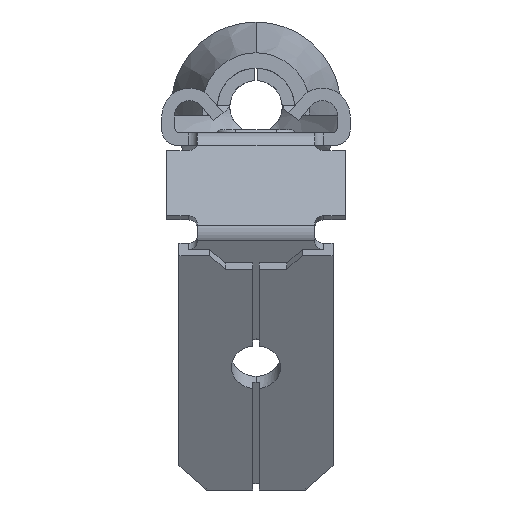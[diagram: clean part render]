
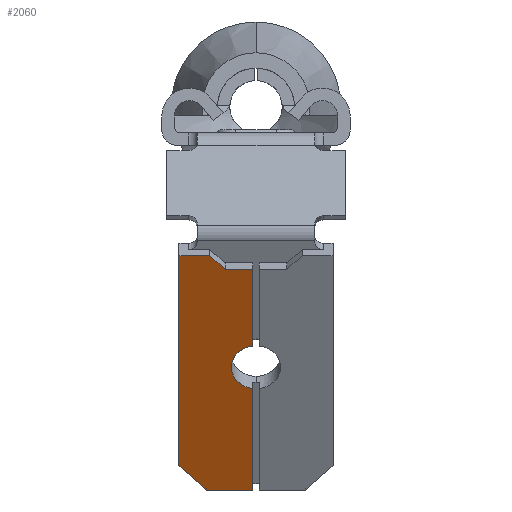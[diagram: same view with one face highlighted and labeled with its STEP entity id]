
A CAD part, front view. The second image highlights one B-rep face of the part: STEP entity #2060.
In plain terms, the highlighted planar face has unit normal (0, -0.866, -0.5).
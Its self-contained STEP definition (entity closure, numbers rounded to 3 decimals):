
#108 = VECTOR ( 'NONE', #2494, 1000. ) ;
#162 = VECTOR ( 'NONE', #1611, 1000. ) ;
#211 = DIRECTION ( 'NONE',  ( 0., 0.5, -0.866 ) ) ;
#216 = LINE ( 'NONE', #4111, #3327 ) ;
#263 = CARTESIAN_POINT ( 'NONE',  ( -1., -17.357, -5.269 ) ) ;
#292 = LINE ( 'NONE', #1249, #162 ) ;
#312 = ORIENTED_EDGE ( 'NONE', *, *, #3832, .T. ) ;
#331 = EDGE_LOOP ( 'NONE', ( #1487, #1475, #1742, #605, #2176, #4123, #312, #2824, #2769 ) ) ;
#381 = PLANE ( 'NONE',  #2603 ) ;
#458 = CARTESIAN_POINT ( 'NONE',  ( -1.5, -17.607, -4.836 ) ) ;
#474 = VECTOR ( 'NONE', #211, 1000. ) ;
#506 = EDGE_CURVE ( 'NONE', #2932, #3240, #4028, .T. ) ;
#512 = VECTOR ( 'NONE', #2602, 1000. ) ;
#548 = DIRECTION ( 'NONE',  ( 0., -0.5, 0.866 ) ) ;
#605 = ORIENTED_EDGE ( 'NONE', *, *, #506, .T. ) ;
#621 = CARTESIAN_POINT ( 'NONE',  ( -0.1, -15.122, -9.14 ) ) ;
#785 = EDGE_CURVE ( 'NONE', #4762, #2932, #3212, .T. ) ;
#917 = CARTESIAN_POINT ( 'NONE',  ( -0.1, -13.219, -12.437 ) ) ;
#1022 = EDGE_CURVE ( 'NONE', #3240, #1486, #292, .T. ) ;
#1144 = CARTESIAN_POINT ( 'NONE',  ( -0.1, -17.357, -5.269 ) ) ;
#1174 = DIRECTION ( 'NONE',  ( -0.707, -0.354, 0.612 ) ) ;
#1249 = CARTESIAN_POINT ( 'NONE',  ( -2.5, -17.607, -4.836 ) ) ;
#1306 = CARTESIAN_POINT ( 'NONE',  ( -0.1, -17.357, -5.269 ) ) ;
#1355 = VERTEX_POINT ( 'NONE', #3052 ) ;
#1384 = EDGE_CURVE ( 'NONE', #1910, #2545, #3802, .T. ) ;
#1475 = ORIENTED_EDGE ( 'NONE', *, *, #4750, .T. ) ;
#1480 = LINE ( 'NONE', #1709, #474 ) ;
#1486 = VERTEX_POINT ( 'NONE', #2064 ) ;
#1487 = ORIENTED_EDGE ( 'NONE', *, *, #1384, .F. ) ;
#1488 = EDGE_CURVE ( 'NONE', #1486, #4480, #1480, .T. ) ;
#1525 = DIRECTION ( 'NONE',  ( 0., 0.5, -0.866 ) ) ;
#1611 = DIRECTION ( 'NONE',  ( -1., 0., 0. ) ) ;
#1616 = VECTOR ( 'NONE', #548, 1000. ) ;
#1709 = CARTESIAN_POINT ( 'NONE',  ( -2.5, -17.607, -4.836 ) ) ;
#1742 = ORIENTED_EDGE ( 'NONE', *, *, #785, .T. ) ;
#1885 = AXIS2_PLACEMENT_3D ( 'NONE', #3205, #3576, #3934 ) ;
#1910 = VERTEX_POINT ( 'NONE', #4019 ) ;
#2035 = VECTOR ( 'NONE', #1174, 1000. ) ;
#2060 = ADVANCED_FACE ( 'NONE', ( #2320 ), #381, .T. ) ;
#2064 = CARTESIAN_POINT ( 'NONE',  ( -2.5, -17.607, -4.836 ) ) ;
#2068 = EDGE_CURVE ( 'NONE', #1355, #4752, #216, .T. ) ;
#2140 = CARTESIAN_POINT ( 'NONE',  ( -1.5, -17.607, -4.836 ) ) ;
#2176 = ORIENTED_EDGE ( 'NONE', *, *, #1022, .T. ) ;
#2227 = CARTESIAN_POINT ( 'NONE',  ( -2.5, -13.669, -11.657 ) ) ;
#2320 = FACE_OUTER_BOUND ( 'NONE', #331, .T. ) ;
#2494 = DIRECTION ( 'NONE',  ( -1., 0., 0. ) ) ;
#2536 = LINE ( 'NONE', #1144, #4609 ) ;
#2545 = VERTEX_POINT ( 'NONE', #621 ) ;
#2602 = DIRECTION ( 'NONE',  ( 0.707, 0.354, -0.612 ) ) ;
#2603 = AXIS2_PLACEMENT_3D ( 'NONE', #3377, #3749, #1525 ) ;
#2769 = ORIENTED_EDGE ( 'NONE', *, *, #4552, .T. ) ;
#2824 = ORIENTED_EDGE ( 'NONE', *, *, #2068, .T. ) ;
#2932 = VERTEX_POINT ( 'NONE', #4588 ) ;
#2991 = DIRECTION ( 'NONE',  ( 1., 0., 0. ) ) ;
#3052 = CARTESIAN_POINT ( 'NONE',  ( -1.6, -13.219, -12.437 ) ) ;
#3153 = CARTESIAN_POINT ( 'NONE',  ( -0.1, -17.357, -5.269 ) ) ;
#3205 = CARTESIAN_POINT ( 'NONE',  ( 0., -15.519, -8.453 ) ) ;
#3212 = LINE ( 'NONE', #263, #108 ) ;
#3240 = VERTEX_POINT ( 'NONE', #458 ) ;
#3327 = VECTOR ( 'NONE', #2991, 1000. ) ;
#3377 = CARTESIAN_POINT ( 'NONE',  ( 0., -15.299, -8.833 ) ) ;
#3383 = DIRECTION ( 'NONE',  ( 0., -0.5, 0.866 ) ) ;
#3496 = LINE ( 'NONE', #2227, #512 ) ;
#3576 = DIRECTION ( 'NONE',  ( 0., -0.866, -0.5 ) ) ;
#3605 = LINE ( 'NONE', #3153, #1616 ) ;
#3749 = DIRECTION ( 'NONE',  ( 0., -0.866, -0.5 ) ) ;
#3802 = CIRCLE ( 'NONE', #1885, 0.8 ) ;
#3832 = EDGE_CURVE ( 'NONE', #4480, #1355, #3496, .T. ) ;
#3934 = DIRECTION ( 'NONE',  ( 0., 0.5, -0.866 ) ) ;
#4019 = CARTESIAN_POINT ( 'NONE',  ( -0.1, -15.916, -7.765 ) ) ;
#4028 = LINE ( 'NONE', #2140, #2035 ) ;
#4087 = CARTESIAN_POINT ( 'NONE',  ( -2.5, -13.669, -11.657 ) ) ;
#4111 = CARTESIAN_POINT ( 'NONE',  ( -1.6, -13.219, -12.437 ) ) ;
#4123 = ORIENTED_EDGE ( 'NONE', *, *, #1488, .T. ) ;
#4480 = VERTEX_POINT ( 'NONE', #4087 ) ;
#4552 = EDGE_CURVE ( 'NONE', #4752, #2545, #2536, .T. ) ;
#4588 = CARTESIAN_POINT ( 'NONE',  ( -1., -17.357, -5.269 ) ) ;
#4609 = VECTOR ( 'NONE', #3383, 1000. ) ;
#4750 = EDGE_CURVE ( 'NONE', #1910, #4762, #3605, .T. ) ;
#4752 = VERTEX_POINT ( 'NONE', #917 ) ;
#4762 = VERTEX_POINT ( 'NONE', #1306 ) ;
